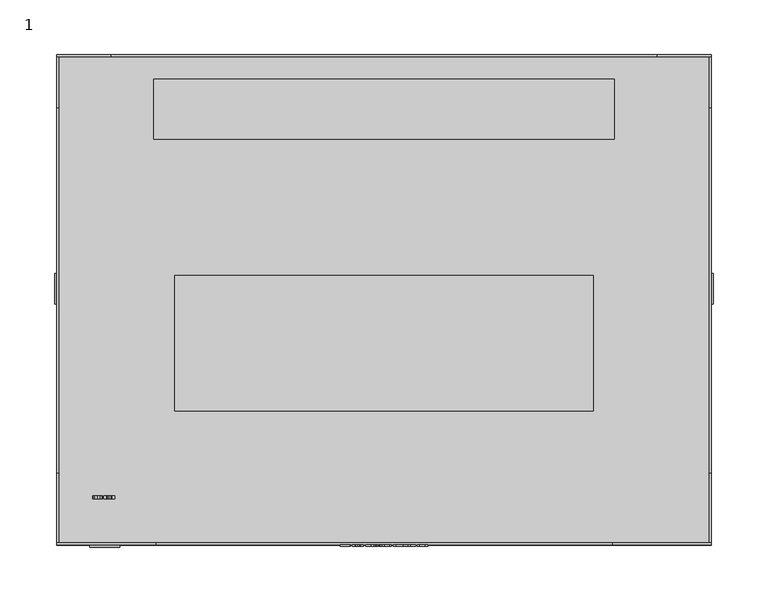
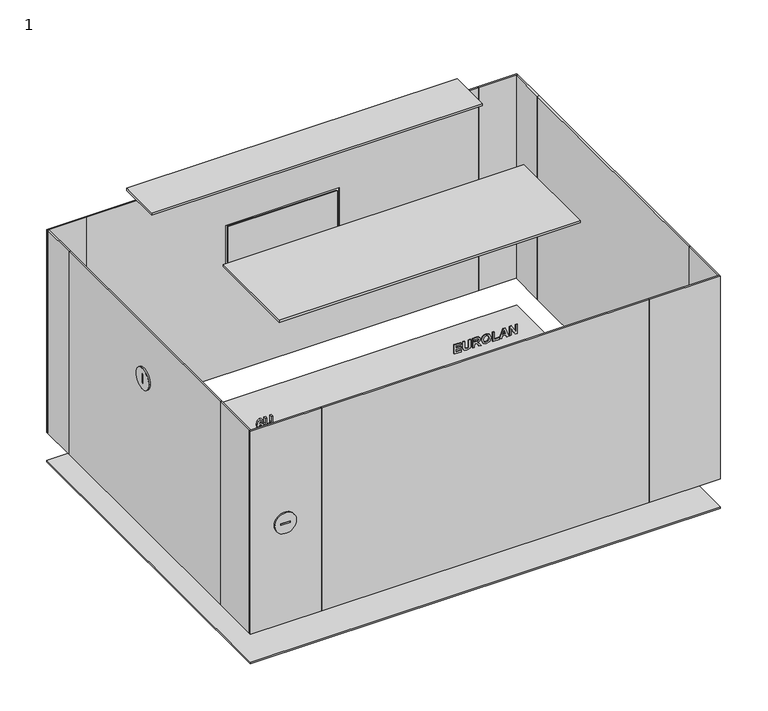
"""IFC4 building model written with IfcOpenShell, lengths in millimetres: proxy geometry, 1 : 6U 450мм стеклянная дверь."""

from ifc_helpers import new_model, si_unit, point, frame, frame_2d, origin, origin_with_axes, place, context, project, spatial, polyline, circle_curve, trimmed, segment, composite_curve, outline, extrude, source, transform, mapped, element, save


def proxy_1_e7a79305(model_context):
    return source(origin(), model_context, "Body", "SweptSolid", [
        extrude(outline(polyline([(328.0, -40.3245382), (328.0, -30.9964522), (330.1376864, -30.9964522), (330.1376864, -37.9925167), (333.2470483, -37.9925167), (333.2470483, -31.5794576), (335.3847347, -31.5794576), (335.3847347, -37.9925167), (338.1054264, -37.9925167), (338.1054264, -31.1907874), (340.2431128, -31.1907874), (340.2431128, -40.3245382), (328.0, -40.3245382)])), frame((0.0, -226.0, 0.0), z_axis=(0.0, 1.0, 0.0), x_axis=(0.0, 0.0, 1.0)), (0.0, 0.0, 1.0), 1.0),
        extrude(outline(polyline([(340.2431128, -29.053101), (333.7207402, -29.053101), (330.6174512, -28.8071456), (329.2601418, -28.1026808), (328.2095176, -26.6482039), (327.8056649, -23.9487675), (328.1761162, -21.5575346), (329.173602, -20.0954664), (330.7085458, -19.3454543), (333.8209443, -19.1420097), (340.2431128, -19.1420097), (340.2431128, -21.4740312), (333.4960402, -21.4740312), (331.4236383, -21.5924541), (330.3714958, -22.2923642), (329.9433512, -24.0216432), (330.3973059, -25.7979877), (331.5982363, -26.6208755), (333.6387551, -26.7210795), (340.2431128, -26.7210795), (340.2431128, -29.053101)])), frame((0.0, -226.0, 0.0), z_axis=(0.0, 1.0, 0.0), x_axis=(0.0, 0.0, 1.0)), (0.0, 0.0, 1.0), 1.0),
        extrude(outline(polyline([(328.0, -16.8099882), (328.0, -14.4779667), (333.0527132, -13.9435451), (332.9251808, -12.6120459), (332.4560437, -11.8164865), (330.7966039, -10.4242575), (328.0, -8.6509495), (328.0, -5.9272213), (330.3745323, -7.424209), (332.3512849, -8.7238252), (333.3715443, -9.9475291), (334.5071902, -7.6625732), (336.7936644, -6.8988969), (338.7339791, -7.4272455), (339.9121358, -8.8361752), (340.2431128, -11.6601074), (340.2431128, -16.8099882), (328.0, -16.8099882)]), holes=[polyline([(335.1903996, -14.4779667), (338.1054264, -14.4779667), (338.1054264, -12.4495939), (338.0659521, -10.5548264), (337.6150339, -9.5770778), (336.6782779, -9.2309184), (335.817434, -9.4935744), (335.3315962, -10.2223312), (335.1903996, -12.5558709), (335.1903996, -14.4779667)])]), frame((0.0, -226.0, 0.0), z_axis=(0.0, 1.0, 0.0), x_axis=(0.0, 0.0, 1.0)), (0.0, 0.0, 1.0), 1.0),
        extrude(outline(polyline([(334.0456442, -4.9555457), (329.4681411, -3.3735363), (327.8056649, 0.8896905), (329.4757323, 5.1225524), (334.106374, 6.7045618), (338.7628257, 5.1104065), (340.4374479, 0.8593256), (339.9546466, -1.7338337), (338.8539203, -3.2869964), (337.1792981, -4.4059416), (334.0456442, -4.9555457)]), holes=[polyline([(334.1306659, -2.6235242), (337.2612832, -1.6579215), (338.2997616, 0.886654), (337.2734292, 3.4190836), (334.1640672, 4.3725403), (330.9985302, 3.3932735), (329.9433512, 0.886654), (331.0061214, -1.6321114), (334.1306659, -2.6235242)])]), frame((0.0, -226.0, 0.0), z_axis=(0.0, 1.0, 0.0), x_axis=(0.0, 0.0, 1.0)), (0.0, 0.0, 1.0), 1.0),
        extrude(outline(polyline([(328.0, 8.647913), (328.0, 17.1986585), (330.1376864, 17.1986585), (330.1376864, 10.9799345), (340.2431128, 10.9799345), (340.2431128, 8.647913), (328.0, 8.647913)])), frame((0.0, -226.0, 0.0), z_axis=(0.0, 1.0, 0.0), x_axis=(0.0, 0.0, 1.0)), (0.0, 0.0, 1.0), 1.0),
        extrude(outline(polyline([(328.0, 29.2474361), (340.2431128, 24.7352175), (340.2431128, 22.2513717), (328.0, 17.7816638), (328.0, 20.2655096), (330.7206917, 21.2128934), (330.7206917, 25.837462), (328.0, 26.7969917), (328.0, 29.2474361)]), holes=[polyline([(332.8583781, 25.0904864), (332.8583781, 21.959869), (337.3280859, 23.51455), (332.8583781, 25.0904864)])]), frame((0.0, -226.0, 0.0), z_axis=(0.0, 1.0, 0.0), x_axis=(0.0, 0.0, 1.0)), (0.0, 0.0, 1.0), 1.0),
        extrude(outline(polyline([(328.0, 30.4134469), (328.0, 32.7454684), (336.1195644, 32.7454684), (328.0, 37.8042546), (328.0, 40.3245382), (340.2431128, 40.3245382), (340.2431128, 37.9925167), (332.002089, 37.9925167), (340.2431128, 32.8578184), (340.2431128, 30.4134469), (328.0, 30.4134469)])), frame((0.0, -226.0, 0.0), z_axis=(0.0, 1.0, 0.0), x_axis=(0.0, 0.0, 1.0)), (0.0, 0.0, 1.0), 1.0),
        extrude(outline(composite_curve([segment(trimmed(circle_curve(frame_2d((9.997621, 243.4611412)), 14.0), [point((-4.002379, 243.4611412))], [point((23.997621, 243.4611412))], False, "CARTESIAN"), True, "CONTINUOUS"), segment(trimmed(circle_curve(frame_2d((9.997621, 243.4611412)), 14.0), [point((23.997621, 243.4611412))], [point((-4.002379, 243.4611412))], False, "CARTESIAN"), True, "CONTINUOUS")], self_intersect=False), holes=[polyline([(11.0, 249.5), (9.0, 249.5), (9.0, 237.5), (11.0, 237.5), (11.0, 249.5)])]), frame((-302.0, 0.0, 0.0), z_axis=(1.0, 0.0, 0.0), x_axis=(0.0, 1.0, 0.0)), (0.0, 0.0, 1.0), 2.0),
        extrude(outline(composite_curve([segment(trimmed(circle_curve(frame_2d((9.997621, 243.4611412)), 14.0), [point((-4.002379, 243.4611412))], [point((23.997621, 243.4611412))], False, "CARTESIAN"), True, "CONTINUOUS"), segment(trimmed(circle_curve(frame_2d((9.997621, 243.4611412)), 14.0), [point((23.997621, 243.4611412))], [point((-4.002379, 243.4611412))], False, "CARTESIAN"), True, "CONTINUOUS")], self_intersect=False), holes=[polyline([(11.0, 249.5), (9.0, 249.5), (9.0, 237.5), (11.0, 237.5), (11.0, 249.5)])]), frame((300.0, 0.0, 0.0), z_axis=(1.0, 0.0, 0.0), x_axis=(0.0, 1.0, 0.0)), (0.0, 0.0, 1.0), 2.0),
        extrude(outline(composite_curve([segment(trimmed(circle_curve(frame_2d((176.0, -256.0)), 13.7647373), [point((176.0, -242.2352627))], [point((176.0, -269.7647373))], False, "CARTESIAN"), True, "CONTINUOUS"), segment(trimmed(circle_curve(frame_2d((176.0, -256.0)), 13.7647373), [point((176.0, -269.7647373))], [point((176.0, -242.2352627))], False, "CARTESIAN"), True, "CONTINUOUS")], self_intersect=False), holes=[polyline([(177.0, -250.0), (175.0, -250.0), (175.0, -262.0), (177.0, -262.0), (177.0, -250.0)])]), frame((0.0, -227.0, 0.0), z_axis=(0.0, 1.0, 0.0), x_axis=(0.0, 0.0, 1.0)), (0.0, 0.0, 1.0), 2.0),
        extrude(outline(polyline([(300.0, 225.0), (300.0, -225.0), (-300.0, -225.0), (-300.0, 225.0), (300.0, 225.0)])), origin_with_axes(), (0.0, 0.0, 1.0), 2.0),
        extrude(outline(polyline([(211.0, 202.5), (211.0, 147.5), (-211.0, 147.5), (-211.0, 202.5), (211.0, 202.5)])), frame((0.0, 0.0, 348.9795778), z_axis=(0.0, 0.0, 1.0), x_axis=(1.0, 0.0, 0.0)), (0.0, 0.0, 1.0), 3.0204222),
        extrude(outline(polyline([(192.0, 22.0), (192.0, -102.0), (-192.0, -102.0), (-192.0, 22.0), (192.0, 22.0)])), frame((0.0, 0.0, 348.9795778), z_axis=(0.0, 0.0, 1.0), x_axis=(1.0, 0.0, 0.0)), (0.0, 0.0, 1.0), 3.0204222),
        extrude(outline(polyline([(-69.5, 225.0), (69.5, 225.0), (69.5, 223.0), (-69.5, 223.0), (-69.5, 225.0)])), frame((0.0, 0.0, 189.0), z_axis=(0.0, 0.0, 1.0), x_axis=(1.0, 0.0, 0.0)), (0.0, 0.0, 1.0), 49.0),
        extrude(outline(polyline([(314.0, -250.0), (40.0, -250.0), (40.0, 250.0), (314.0, 250.0), (314.0, -250.0)]), holes=[polyline([(241.0, -72.5), (241.0, 72.5), (186.0, 72.5), (186.0, -72.5), (241.0, -72.5)])]), frame((0.0, 223.0, 0.0), z_axis=(0.0, 1.0, 0.0), x_axis=(0.0, 0.0, 1.0)), (0.0, 0.0, 1.0), 2.0),
        extrude(outline(polyline([(-300.0, 225.0), (-250.0, 225.0), (-250.0, 223.0), (-300.0, 223.0), (-300.0, 225.0)])), frame((0.0, 0.0, 40.0), z_axis=(0.0, 0.0, 1.0), x_axis=(1.0, 0.0, 0.0)), (0.0, 0.0, 1.0), 274.0),
        extrude(outline(polyline([(250.0, 225.0), (300.0, 225.0), (300.0, 223.0), (250.0, 223.0), (250.0, 225.0)])), frame((0.0, 0.0, 40.0), z_axis=(0.0, 0.0, 1.0), x_axis=(1.0, 0.0, 0.0)), (0.0, 0.0, 1.0), 274.0),
        extrude(outline(polyline([(-209.0, -223.0), (209.0, -223.0), (209.0, -225.0), (-209.0, -225.0), (-209.0, -223.0)])), frame((0.0, 0.0, 40.0), z_axis=(0.0, 0.0, 1.0), x_axis=(1.0, 0.0, 0.0)), (0.0, 0.0, 1.0), 274.0),
        extrude(outline(polyline([(209.0, -223.0), (300.0, -223.0), (300.0, -225.0), (209.0, -225.0), (209.0, -223.0)])), frame((0.0, 0.0, 40.0), z_axis=(0.0, 0.0, 1.0), x_axis=(1.0, 0.0, 0.0)), (0.0, 0.0, 1.0), 274.0),
        extrude(outline(polyline([(-300.0, -223.0), (-209.0, -223.0), (-209.0, -225.0), (-300.0, -225.0), (-300.0, -223.0)])), frame((0.0, 0.0, 40.0), z_axis=(0.0, 0.0, 1.0), x_axis=(1.0, 0.0, 0.0)), (0.0, 0.0, 1.0), 274.0),
        extrude(outline(polyline([(-298.0, 175.8155315), (-298.0, -158.7095641), (-300.0, -158.7095641), (-300.0, 175.8155315), (-298.0, 175.8155315)])), frame((0.0, 0.0, 40.0), z_axis=(0.0, 0.0, 1.0), x_axis=(1.0, 0.0, 0.0)), (0.0, 0.0, 1.0), 274.0),
        extrude(outline(polyline([(-298.0, -158.7095641), (-298.0, -225.0), (-300.0, -225.0), (-300.0, -158.7095641), (-298.0, -158.7095641)])), frame((0.0, 0.0, 40.0), z_axis=(0.0, 0.0, 1.0), x_axis=(1.0, 0.0, 0.0)), (0.0, 0.0, 1.0), 274.0),
        extrude(outline(polyline([(-298.0, 225.0), (-298.0, 175.8155315), (-300.0, 175.8155315), (-300.0, 225.0), (-298.0, 225.0)])), frame((0.0, 0.0, 40.0), z_axis=(0.0, 0.0, 1.0), x_axis=(1.0, 0.0, 0.0)), (0.0, 0.0, 1.0), 274.0),
        extrude(outline(polyline([(300.0, 175.8155315), (300.0, -158.7095641), (298.0, -158.7095641), (298.0, 175.8155315), (300.0, 175.8155315)])), frame((0.0, 0.0, 40.0), z_axis=(0.0, 0.0, 1.0), x_axis=(1.0, 0.0, 0.0)), (0.0, 0.0, 1.0), 274.0),
        extrude(outline(polyline([(300.0, 225.0), (300.0, 175.8155315), (298.0, 175.8155315), (298.0, 225.0), (300.0, 225.0)])), frame((0.0, 0.0, 40.0), z_axis=(0.0, 0.0, 1.0), x_axis=(1.0, 0.0, 0.0)), (0.0, 0.0, 1.0), 274.0),
        extrude(outline(polyline([(300.0, -158.7095641), (300.0, -225.0), (298.0, -225.0), (298.0, -158.7095641), (300.0, -158.7095641)])), frame((0.0, 0.0, 40.0), z_axis=(0.0, 0.0, 1.0), x_axis=(1.0, 0.0, 0.0)), (0.0, 0.0, 1.0), 274.0),
        extrude(outline(polyline([(287.6111434, -258.8540615), (290.0281866, -259.9654155), (290.8601838, -262.1668681), (289.381415, -265.2473834), (284.5534017, -266.4331314), (279.8559574, -265.2974855), (278.4227359, -262.4006775), (279.5325716, -259.7073142), (282.4764451, -258.6597264), (285.2973409, -259.6845405), (286.390476, -262.1486492), (285.3671801, -264.2802626), (288.0772441, -263.6638558), (288.7224974, -262.4674802), (288.3900022, -261.5990451), (287.3621516, -261.186083), (287.6111434, -258.8540615)]), holes=[polyline([(282.5280654, -264.1011099), (283.8155356, -263.6532281), (284.2527896, -262.5585748), (283.7957984, -261.4396296), (282.3549856, -260.9917479), (280.9794573, -261.4077465), (280.5604222, -262.4462248), (281.0720702, -263.5970531), (282.5280654, -264.1011099)])]), frame((0.0, -182.6777479, 0.0), z_axis=(0.0, 1.0, 0.0), x_axis=(0.0, 0.0, 1.0)), (0.0, 0.0, 1.0), 3.0),
        extrude(outline(polyline([(290.8601838, -256.7163752), (284.3378112, -256.7163752), (281.2345222, -256.4704198), (279.8772128, -255.7659549), (278.8265886, -254.311478), (278.4227359, -251.6120417), (278.7931872, -249.2208087), (279.790673, -247.7587405), (281.3256168, -247.0087284), (284.4380153, -246.8052838), (290.8601838, -246.8052838), (290.8601838, -249.1373053), (284.1131112, -249.1373053), (282.0407093, -249.2557283), (280.9885668, -249.9556384), (280.5604222, -251.6849173), (281.0143769, -253.4612618), (282.2153073, -254.2841496), (284.2558261, -254.3843537), (290.8601838, -254.3843537), (290.8601838, -256.7163752)])), frame((0.0, -182.6777479, 0.0), z_axis=(0.0, 1.0, 0.0), x_axis=(0.0, 0.0, 1.0)), (0.0, 0.0, 1.0), 3.0),
        extrude(outline(polyline([(237.3503584, -266.4331314), (234.6964693, -265.1957632), (233.7096113, -262.522137), (235.2825112, -259.312571), (237.9029989, -258.4653913), (240.7679237, -259.4826142), (241.8716865, -261.960387), (241.3949581, -263.4634477), (243.6207026, -262.9927924), (243.6207026, -259.0483966), (245.9527241, -259.0483966), (245.9527241, -264.8784504), (239.0629366, -266.2387962), (238.7623245, -264.2164963), (239.7340001, -262.509991), (239.2633447, -261.2726229), (237.8513786, -260.7974128), (236.3467996, -261.3090607), (235.8472976, -262.5585748), (236.317953, -263.7002937), (237.5963138, -264.295445), (237.3503584, -266.4331314)])), frame((0.0, -182.6777479, 0.0), z_axis=(0.0, 1.0, 0.0), x_axis=(0.0, 0.0, 1.0)), (0.0, 0.0, 1.0), 3.0),
        extrude(outline(polyline([(246.1470592, -256.7163752), (239.6246866, -256.7163752), (236.5213976, -256.4704198), (235.1640882, -255.7659549), (234.113464, -254.311478), (233.7096113, -251.6120417), (234.0800626, -249.2208087), (235.0775484, -247.7587405), (236.6124922, -247.0087284), (239.7248907, -246.8052838), (246.1470592, -246.8052838), (246.1470592, -249.1373053), (239.3999866, -249.1373053), (237.3275847, -249.2557283), (236.2754422, -249.9556384), (235.8472976, -251.6849173), (236.3012523, -253.4612618), (237.5021827, -254.2841496), (239.5427015, -254.3843537), (246.1470592, -254.3843537), (246.1470592, -256.7163752)])), frame((0.0, -182.6777479, 0.0), z_axis=(0.0, 1.0, 0.0), x_axis=(0.0, 0.0, 1.0)), (0.0, 0.0, 1.0), 3.0),
        extrude(outline(polyline([(189.9283299, -262.1577586), (189.9283299, -259.8257371), (192.4546865, -259.8257371), (192.4546865, -258.2710562), (194.3980377, -258.2710562), (194.3980377, -259.8257371), (201.9771076, -259.8257371), (201.9771076, -261.848037), (194.3889283, -266.8218016), (192.4546865, -266.8218016), (192.4546865, -262.1577586), (189.9283299, -262.1577586)]), holes=[polyline([(194.3980377, -262.1577586), (194.3980377, -264.7630639), (198.3758348, -262.1577586), (194.3980377, -262.1577586)])]), frame((0.0, -182.6777479, 0.0), z_axis=(0.0, 1.0, 0.0), x_axis=(0.0, 0.0, 1.0)), (0.0, 0.0, 1.0), 3.0),
        extrude(outline(polyline([(202.1714427, -256.7163752), (195.6490701, -256.7163752), (192.5457811, -256.4704198), (191.1884717, -255.7659549), (190.1378475, -254.311478), (189.7339948, -251.6120417), (190.1044461, -249.2208087), (191.1019319, -247.7587405), (192.6368757, -247.0087284), (195.7492742, -246.8052838), (202.1714427, -246.8052838), (202.1714427, -249.1373053), (195.4243701, -249.1373053), (193.3519682, -249.2557283), (192.2998257, -249.9556384), (191.8716811, -251.6849173), (192.3256358, -253.4612618), (193.5265662, -254.2841496), (195.567085, -254.3843537), (202.1714427, -254.3843537), (202.1714427, -256.7163752)])), frame((0.0, -182.6777479, 0.0), z_axis=(0.0, 1.0, 0.0), x_axis=(0.0, 0.0, 1.0)), (0.0, 0.0, 1.0), 3.0),
        extrude(outline(polyline([(148.35045, -266.4331314), (145.734517, -265.2200551), (144.7339948, -262.5859032), (145.859013, -259.7847446), (148.5781864, -258.6597264), (150.4562532, -259.294352), (151.4567755, -260.9887114), (154.0286794, -259.2427318), (156.0691982, -260.0565101), (157.1714427, -262.6739613), (156.773663, -264.3971673), (155.6820462, -265.5965794), (153.8282713, -266.2387962), (153.4790753, -263.9067747), (154.6374949, -263.4892579), (155.0337563, -262.6587789), (154.6921516, -261.8708107), (153.776651, -261.5747533), (152.6956619, -261.9710147), (152.3130646, -263.1203248), (150.3909688, -263.3237694), (150.5640485, -262.397641), (150.0812472, -261.4001553), (148.7725216, -260.9917479), (147.3863656, -261.4381114), (146.8716811, -262.5403559), (147.3210811, -263.5757977), (148.6206973, -264.1011099), (148.35045, -266.4331314)])), frame((0.0, -182.6777479, 0.0), z_axis=(0.0, 1.0, 0.0), x_axis=(0.0, 0.0, 1.0)), (0.0, 0.0, 1.0), 3.0),
        extrude(outline(polyline([(157.1714427, -256.7163752), (150.6490701, -256.7163752), (147.5457811, -256.4704198), (146.1884717, -255.7659549), (145.1378475, -254.311478), (144.7339948, -251.6120417), (145.1044461, -249.2208087), (146.1019319, -247.7587405), (147.6368757, -247.0087284), (150.7492742, -246.8052838), (157.1714427, -246.8052838), (157.1714427, -249.1373053), (150.4243701, -249.1373053), (148.3519682, -249.2557283), (147.2998257, -249.9556384), (146.8716811, -251.6849173), (147.3256358, -253.4612618), (148.5265662, -254.2841496), (150.567085, -254.3843537), (157.1714427, -254.3843537), (157.1714427, -256.7163752)])), frame((0.0, -182.6777479, 0.0), z_axis=(0.0, 1.0, 0.0), x_axis=(0.0, 0.0, 1.0)), (0.0, 0.0, 1.0), 3.0),
        extrude(outline(polyline([(103.3014708, -258.8246798), (103.9391329, -262.7326376), (105.2660774, -261.4011384), (106.7964665, -259.9512162), (108.3298921, -259.094927), (109.8724272, -258.8246798), (112.2545507, -259.8115378), (113.2125621, -262.5261566), (112.3577912, -265.1527172), (109.5384137, -266.4037496), (109.3258596, -264.0717281), (110.6695048, -263.6223281), (111.0748758, -262.5777768), (110.6634319, -261.5347438), (109.4837569, -261.1567012), (108.0809003, -261.6061012), (106.1254031, -263.4097741), (103.2574418, -265.8541456), (100.9694493, -266.5980847), (100.9694493, -258.8246798), (103.3014708, -258.8246798)])), frame((0.0, -182.6777479, 0.0), z_axis=(0.0, 1.0, 0.0), x_axis=(0.0, 0.0, 1.0)), (0.0, 0.0, 1.0), 3.0),
        extrude(outline(polyline([(113.2125621, -256.8813285), (106.6901895, -256.8813285), (103.5869005, -256.6353731), (102.2295911, -255.9309083), (101.1789669, -254.4764314), (100.7751142, -251.776995), (101.1455655, -249.3857621), (102.1430513, -247.9236939), (103.6779951, -247.1736818), (106.7903936, -246.9702372), (113.2125621, -246.9702372), (113.2125621, -249.3022587), (106.4654895, -249.3022587), (104.3930876, -249.4206817), (103.3409451, -250.1205917), (102.9128006, -251.8498707), (103.3667553, -253.6262152), (104.5676856, -254.449103), (106.6082044, -254.549307), (113.2125621, -254.549307), (113.2125621, -256.8813285)])), frame((0.0, -182.6777479, 0.0), z_axis=(0.0, 1.0, 0.0), x_axis=(0.0, 0.0, 1.0)), (0.0, 0.0, 1.0), 3.0),
        extrude(outline(polyline([(59.9283299, -260.6030776), (72.1714427, -260.6030776), (72.1714427, -262.4614073), (70.2053178, -263.9037383), (69.0620807, -265.850126), (66.7300592, -265.850126), (68.6794834, -262.9350991), (59.9283299, -262.9350991), (59.9283299, -260.6030776)])), frame((0.0, -182.6777479, 0.0), z_axis=(0.0, 1.0, 0.0), x_axis=(0.0, 0.0, 1.0)), (0.0, 0.0, 1.0), 3.0),
        extrude(outline(polyline([(72.1714427, -256.7163752), (65.6490701, -256.7163752), (62.5457811, -256.4704198), (61.1884717, -255.7659549), (60.1378475, -254.311478), (59.7339948, -251.6120417), (60.1044461, -249.2208087), (61.1019319, -247.7587405), (62.6368757, -247.0087284), (65.7492742, -246.8052838), (72.1714427, -246.8052838), (72.1714427, -249.1373053), (65.4243701, -249.1373053), (63.3519682, -249.2557283), (62.2998257, -249.9556384), (61.8716811, -251.6849173), (62.3256358, -253.4612618), (63.5265662, -254.2841496), (65.567085, -254.3843537), (72.1714427, -254.3843537), (72.1714427, -256.7163752)])), frame((0.0, -182.6777479, 0.0), z_axis=(0.0, 1.0, 0.0), x_axis=(0.0, 0.0, 1.0)), (0.0, 0.0, 1.0), 3.0),
    ])


if __name__ == "__main__":
    model = new_model("IFC4")
    model_context = context("Model", 3, world=origin())
    ifc_project = project(units=[si_unit("LENGTHUNIT", "METRE", prefix="MILLI")], contexts=[model_context])
    site = spatial("IfcSite", under=ifc_project)
    building = spatial("IfcBuilding", under=site)
    placement = place(None, origin())
    proxy_1_shape = proxy_1_e7a79305(model_context)
    element("IfcBuildingElementProxy", 1, Name="1 : 6U 450мм стеклянная дверь", ObjectType="1 : 6U 450мм стеклянная дверь", at=placement, inside=building, context=model_context, shape_type="MappedRepresentation", body=[
        mapped(proxy_1_shape, transform((0.0, 0.0, 0.0), x_axis=(1.0, 0.0, 0.0), y_axis=(0.0, 1.0, 0.0), z_axis=(0.0, 0.0, 1.0))),
    ])
    save(model, "model.ifc")
